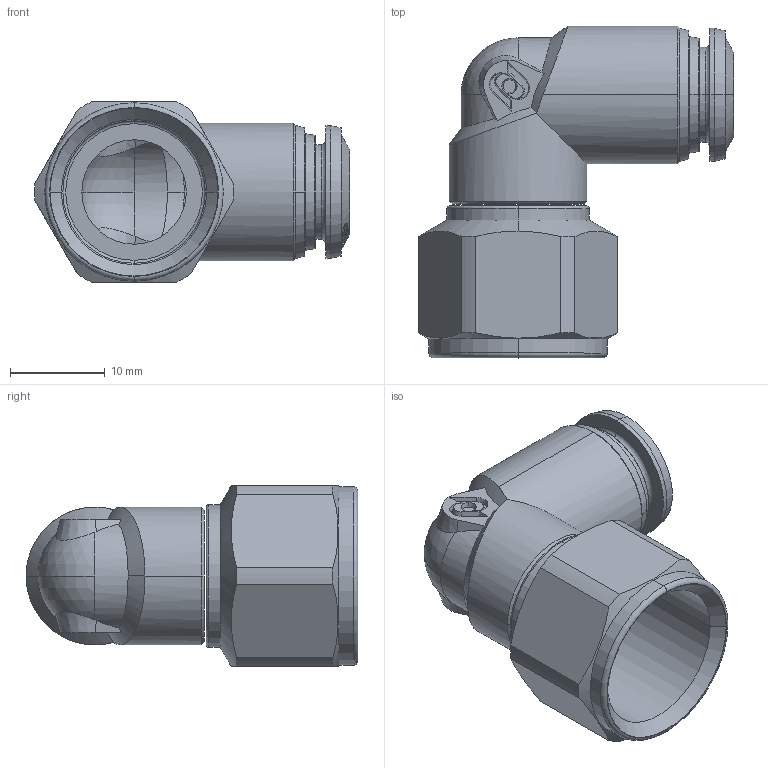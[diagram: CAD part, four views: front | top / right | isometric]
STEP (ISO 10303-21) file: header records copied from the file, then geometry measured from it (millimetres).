
FILE_DESCRIPTION (( 'STEP AP214' ), '1' );
FILE_NAME ('5010600007A.STEP', '2016-05-11T12:14:36', ( '' ), ( '' ), 'SwSTEP 2.0', 'SolidWorks 2016', '' );
FILE_SCHEMA (( 'AUTOMOTIVE_DESIGN' ));
Length unit declared in the file: millimetre
Products named in the file (1): 5010600007A
Bounding box: 33.2 x 34.95 x 19 mm (x, y, z)
Surface area: 3872.9 mm2 (no closed solid volume)
Topology: 0 solids, 4 shells, 225 faces, 612 edges, 403 vertices
Faces by surface type: bspline 94, cone 56, plane 37, cylinder 28, torus 8, sphere 2
Entity records: 15130 total; most frequent: CARTESIAN_POINT 7893, ORIENTED_EDGE 1172, DIRECTION 624, EDGE_CURVE 612, VERTEX_POINT 403, B_SPLINE_CURVE_WITH_KNOTS 365, AXIS2_PLACEMENT_3D 255, EDGE_LOOP 250
